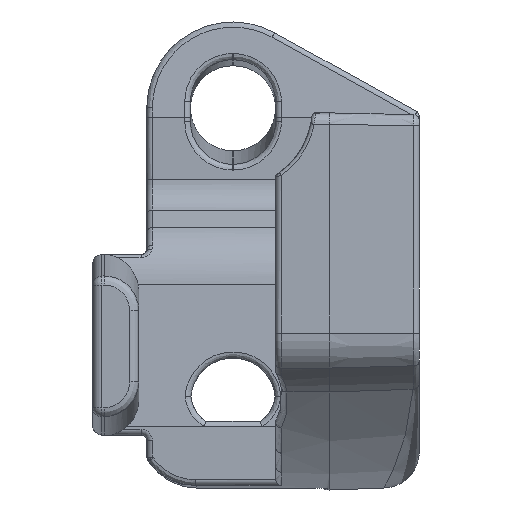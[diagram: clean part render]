
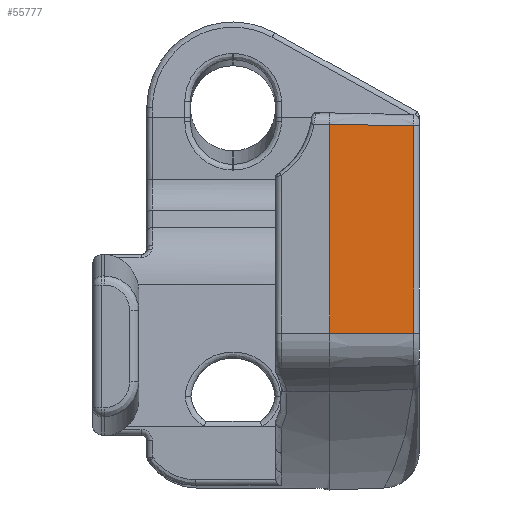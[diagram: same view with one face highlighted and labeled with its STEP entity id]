
A CAD part, left-side view. The second image highlights one B-rep face of the part: STEP entity #55777.
In plain terms, the highlighted planar face has unit normal (-0.999, -0.035, 0).
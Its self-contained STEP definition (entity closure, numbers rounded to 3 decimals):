
#20565=DIRECTION('',(0.,0.,1.));
#20566=VECTOR('',#20565,18.026);
#20567=CARTESIAN_POINT('',(-56.894,-15.717,-6.85));
#20568=LINE('',#20567,#20566);
#20572=DIRECTION('',(-0.035,0.999,0.));
#20573=VECTOR('',#20572,7.322);
#20574=CARTESIAN_POINT('',(-56.894,-15.717,-6.85));
#20575=LINE('',#20574,#20573);
#20579=DIRECTION('',(0.,0.,1.));
#20580=VECTOR('',#20579,18.15);
#20581=CARTESIAN_POINT('',(-57.15,-8.4,-6.85));
#20582=LINE('',#20581,#20580);
#20586=CARTESIAN_POINT('',(-56.894,-15.717,
11.176));
#20587=CARTESIAN_POINT('',(-56.914,-15.159,
11.185));
#20588=CARTESIAN_POINT('',(-56.954,-14.023,
11.204));
#20589=CARTESIAN_POINT('',(-57.014,-12.281,
11.234));
#20590=CARTESIAN_POINT('',(-57.079,-10.44,
11.265));
#20591=CARTESIAN_POINT('',(-57.126,-9.096,
11.288));
#20592=CARTESIAN_POINT('',(-57.15,-8.4,11.3));
#31012=CARTESIAN_POINT('',(-56.894,-15.717,-6.85));
#31013=VERTEX_POINT('',#31012);
#31016=CARTESIAN_POINT('',(-56.894,-15.717,
11.176));
#31017=VERTEX_POINT('',#31016);
#31115=VERTEX_POINT('',#20592);
#31118=CARTESIAN_POINT('',(-57.15,-8.4,-6.85));
#31119=VERTEX_POINT('',#31118);
#55764=CARTESIAN_POINT('',(-57.15,-8.4,-6.85));
#55765=DIRECTION('',(0.999,0.035,0.));
#55766=DIRECTION('',(0.,0.,1.));
#55767=AXIS2_PLACEMENT_3D('',#55764,#55765,#55766);
#55768=PLANE('',#55767);
#55769=ORIENTED_EDGE('',*,*,#34428,.F.);
#55771=ORIENTED_EDGE('',*,*,#55770,.T.);
#55772=ORIENTED_EDGE('',*,*,#55755,.T.);
#55774=ORIENTED_EDGE('',*,*,#55773,.F.);
#55775=EDGE_LOOP('',(#55769,#55771,#55772,#55774));
#55776=FACE_OUTER_BOUND('',#55775,.F.);
#20593=B_SPLINE_CURVE_WITH_KNOTS('',3,(#20586,#20587,#20588,#20589,#20590,
#20591,#20592),.UNSPECIFIED.,.F.,.F.,(4,1,1,1,4),(0.,0.25,0.5,0.75,
1.),.UNSPECIFIED.);
#34428=EDGE_CURVE('',#31013,#31017,#20568,.T.);
#55755=EDGE_CURVE('',#31119,#31115,#20582,.T.);
#55770=EDGE_CURVE('',#31013,#31119,#20575,.T.);
#55773=EDGE_CURVE('',#31017,#31115,#20593,.T.);
#55777=ADVANCED_FACE('',(#55776),#55768,.F.);
